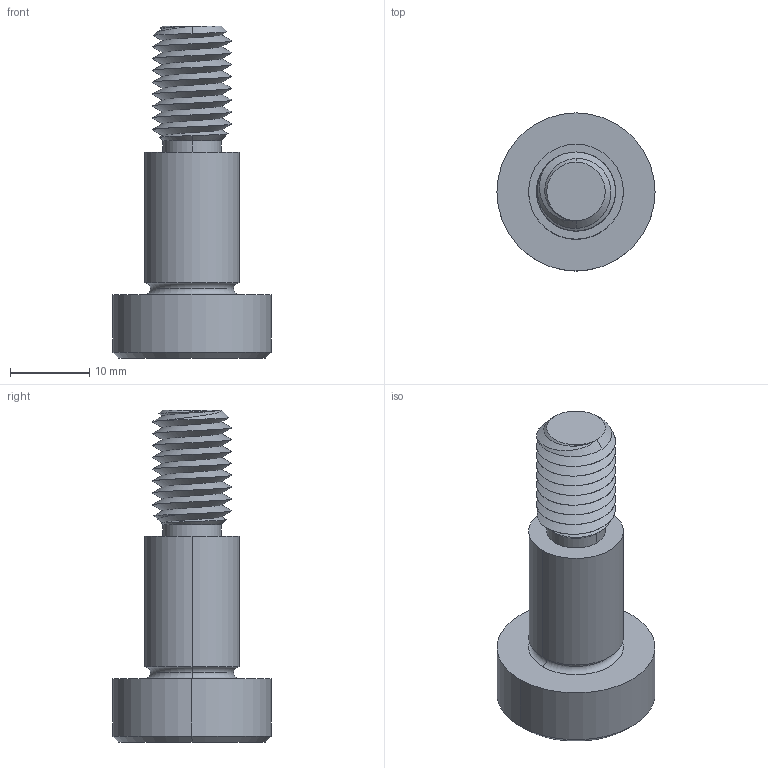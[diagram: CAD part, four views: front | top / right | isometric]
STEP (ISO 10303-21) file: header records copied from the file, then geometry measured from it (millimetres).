
FILE_DESCRIPTION (( 'STEP AP203' ), '1' );
FILE_NAME ('P0130.120-018-B2.step', '2021-11-09T22:03:34', ( '' ), ( '' ), 'SwSTEP 2.0', 'SolidWorks 2019', '' );
FILE_SCHEMA (( 'CONFIG_CONTROL_DESIGN' ));
Length unit declared in the file: millimetre
Products named in the file (1): P0130.120-018-B2
Bounding box: 20 x 20 x 42 mm (x, y, z)
Volume: 5214.1 mm3; surface area: 2735.8 mm2
Topology: 1 solids, 1 shells, 60 faces, 142 edges, 85 vertices
Faces by surface type: cylinder 23, plane 16, cone 15, torus 4, bspline 2
Entity records: 3534 total; most frequent: CARTESIAN_POINT 2187, ORIENTED_EDGE 280, DIRECTION 247, EDGE_CURVE 140, AXIS2_PLACEMENT_3D 99, VERTEX_POINT 85, EDGE_LOOP 63, ADVANCED_FACE 60
